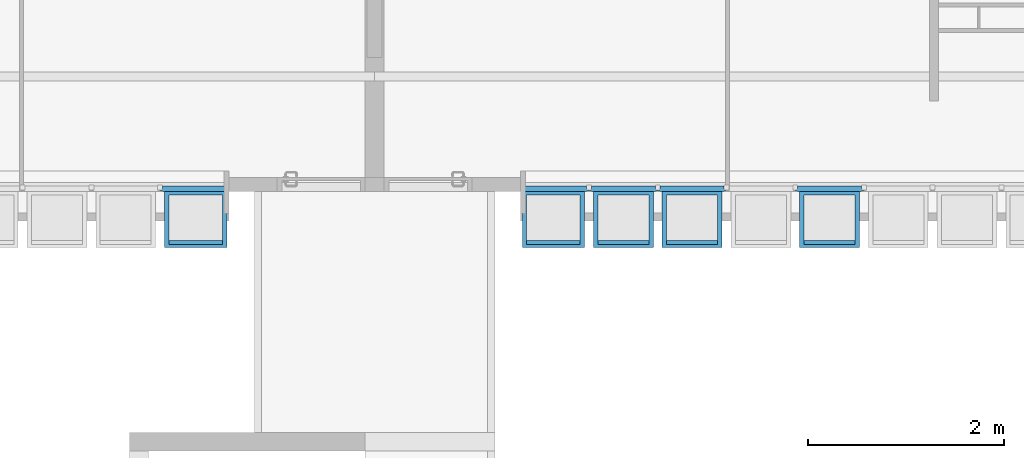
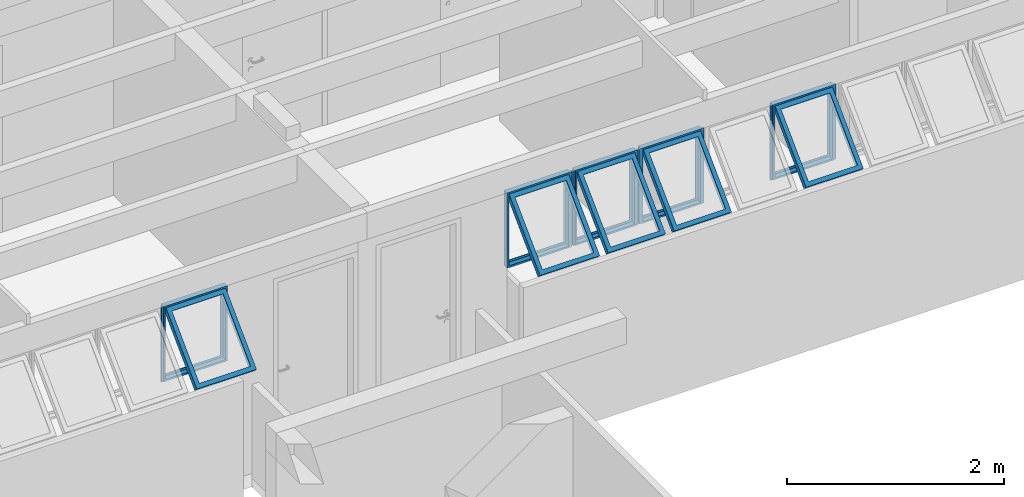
# One storey, part 32 of 37: 5 building element parts, 7 elements without a shape of their own.
"""IFC2X3 building model written with IfcOpenShell, lengths in millimetres."""

from ifc_helpers import new_model, entity, si_unit, converted_unit, derived_unit, money_unit, direction, frame, origin_with_axes, place, context, subcontext, project, spatial, faceted_brep, source, transform, mapped, material, type_object, element, aggregate, save


model = new_model("IFC2X3")

# Units and contexts
model_context = context("Model", 3, precision=0.01, world=origin_with_axes(), true_north=direction((0.0, 1.0)))
body_context = subcontext(model_context, "Body", "Model", "MODEL_VIEW")
ifc_project = project(units=[si_unit("LENGTHUNIT", "METRE", prefix="MILLI"), si_unit("AREAUNIT", "SQUARE_METRE"), si_unit("VOLUMEUNIT", "CUBIC_METRE"), converted_unit("PLANEANGLEUNIT", "DEGREE", entity("IfcPlaneAngleMeasure", 0.0174532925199), si_unit("PLANEANGLEUNIT", "RADIAN"), dimensions=[0, 0, 0, 0, 0, 0, 0]), money_unit("USD"), converted_unit("TIMEUNIT", "Year", entity("IfcTimeMeasure", 31556926.0), si_unit("TIMEUNIT", "SECOND"), dimensions=[0, 0, 1, 0, 0, 0, 0]), si_unit("MASSUNIT", "GRAM", prefix="KILO"), si_unit("THERMODYNAMICTEMPERATUREUNIT", "DEGREE_CELSIUS"), si_unit("LUMINOUSINTENSITYUNIT", "LUMEN"), si_unit("ENERGYUNIT", "JOULE", prefix="MEGA"), derived_unit("THERMALCONDUCTANCEUNIT", [(si_unit("POWERUNIT", "WATT"), 1), (si_unit("LENGTHUNIT", "METRE"), -1), (si_unit("THERMODYNAMICTEMPERATUREUNIT", "KELVIN"), -1)]), derived_unit("SPECIFICHEATCAPACITYUNIT", [(si_unit("ENERGYUNIT", "JOULE"), 1), (si_unit("MASSUNIT", "GRAM", prefix="KILO"), -1), (si_unit("THERMODYNAMICTEMPERATUREUNIT", "KELVIN"), -1)]), derived_unit("MASSDENSITYUNIT", [(si_unit("MASSUNIT", "GRAM", prefix="KILO"), 1), (si_unit("VOLUMEUNIT", "CUBIC_METRE"), -1)])], contexts=[model_context])

# Site, building, storey
site_placement = place(None, origin_with_axes())
site = spatial("IfcSite", under=ifc_project, at=site_placement, Name="Local", CompositionType="ELEMENT")
building_placement = place(site_placement, origin_with_axes())
building = spatial("IfcBuilding", under=site, at=building_placement, Name="Construção", CompositionType="ELEMENT")
storey_placement = place(building_placement, frame((0.0, 0.0, 5300.0), z_axis=(0.0, 0.0, 1.0), x_axis=(1.0, 0.0, 0.0)))
storey = spatial("IfcBuildingStorey", under=building, at=storey_placement, Name="Terceiro Pavimento", CompositionType="ELEMENT", Elevation=5300.0)

# Window, plates, building element parts
window_style = type_object("IfcWindowStyle", Name="Tipo de Parede Cortina", ConstructionType="NOTDEFINED", OperationType="NOTDEFINED", ParameterTakesPrecedence=False, Sizeable=False)
window_1_placement = place(storey_placement, frame((12020.0, 17910.0, 1355.00007107), z_axis=(0.0, 0.0, 1.0), x_axis=(1.0, 0.0, 0.0)))
window_1 = element("IfcWindow", 1, at=window_1_placement, inside=storey, type_object=window_style, Name="APTO12-JANELA-000")
plate_type_1 = type_object("IfcPlateType", Name="Painel Principal 690 x 845 x 20", PredefinedType="CURTAIN_PANEL")
plate_1_placement = place(window_1_placement, frame((0.0, 0.0, 422.499964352), z_axis=(0.0, 0.0, 1.0), x_axis=(1.0, 0.0, 0.0)))
plate_1 = element("IfcPlate", 2, at=plate_1_placement, type_object=plate_type_1, Name="APTO12-Painel-Prin-013")
ifc_material = material(Name="Alumínio")
shared_shape_1 = source(origin_with_axes(), body_context, "Body", "Brep", [
    faceted_brep([(-25.0000036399, 0.0, -40.0), (-25.0000036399, 0.0, -35.0), (-674.999997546, 0.0, -35.0), (-674.999997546, 0.0, -40.0), (-70.0000036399, 45.0, -40.0), (-70.0000036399, 45.0, -35.0), (-629.999997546, 45.0, -35.0), (-629.999997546, 45.0, -40.0)], [[[0, 1, 2, 3]], [[4, 5, 1, 0]], [[1, 5, 6, 2]], [[3, 2, 6, 7]], [[0, 3, 7, 4]], [[7, 6, 5, 4]]]),
    faceted_brep([(-674.999997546, 0.0, -40.0), (-674.999997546, 0.0, -35.0), (-674.999997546, 844.999891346, -35.0), (-674.999997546, 844.999891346, -40.0), (-629.999997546, 45.0, -40.0), (-629.999997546, 45.0, -35.0), (-629.999997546, 799.999891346, -35.0), (-629.999997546, 799.999891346, -40.0)], [[[0, 1, 2, 3]], [[4, 5, 1, 0]], [[1, 5, 6, 2]], [[3, 2, 6, 7]], [[0, 3, 7, 4]], [[7, 6, 5, 4]]]),
    faceted_brep([(-25.0000036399, 844.999891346, -40.0), (-25.0000036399, 844.999891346, -35.0), (-70.0000036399, 799.999891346, -35.0), (-70.0000036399, 799.999891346, -40.0), (-674.999997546, 844.999891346, -40.0), (-674.999997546, 844.999891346, -35.0), (-629.999997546, 799.999891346, -35.0), (-629.999997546, 799.999891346, -40.0)], [[[0, 1, 2, 3]], [[4, 5, 1, 0]], [[1, 5, 6, 2]], [[3, 2, 6, 7]], [[0, 3, 7, 4]], [[7, 6, 5, 4]]]),
    faceted_brep([(-25.0000036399, 0.0, -40.0), (-25.0000036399, 0.0, -35.0), (-70.0000036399, 45.0, -35.0), (-70.0000036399, 45.0, -40.0), (-25.0000036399, 844.999891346, -40.0), (-25.0000036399, 844.999891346, -35.0), (-70.0000036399, 799.999891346, -35.0), (-70.0000036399, 799.999891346, -40.0)], [[[0, 1, 2, 3]], [[4, 5, 1, 0]], [[1, 5, 6, 2]], [[3, 2, 6, 7]], [[0, 3, 7, 4]], [[7, 6, 5, 4]]]),
    faceted_brep([(-25.0000036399, 0.0, -35.0), (-25.0000036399, 0.0, 15.0), (-674.999997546, 0.0, 15.0), (-674.999997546, 0.0, -35.0), (-45.0000036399, 20.0, -35.0), (-45.0000036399, 20.0, 15.0), (-654.999997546, 20.0, 15.0), (-654.999997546, 20.0, -35.0)], [[[0, 1, 2, 3]], [[4, 5, 1, 0]], [[1, 5, 6, 2]], [[3, 2, 6, 7]], [[0, 3, 7, 4]], [[7, 6, 5, 4]]]),
    faceted_brep([(-674.999997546, 0.0, -35.0), (-674.999997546, 0.0, 15.0), (-674.999997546, 844.999891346, 15.0), (-674.999997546, 844.999891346, -35.0), (-654.999997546, 20.0, -35.0), (-654.999997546, 20.0, 15.0), (-654.999997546, 824.999891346, 15.0), (-654.999997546, 824.999891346, -35.0)], [[[0, 1, 2, 3]], [[4, 5, 1, 0]], [[1, 5, 6, 2]], [[3, 2, 6, 7]], [[0, 3, 7, 4]], [[7, 6, 5, 4]]]),
    faceted_brep([(-25.0000036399, 844.999891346, -35.0), (-25.0000036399, 844.999891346, 15.0), (-45.0000036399, 824.999891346, 15.0), (-45.0000036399, 824.999891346, -35.0), (-674.999997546, 844.999891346, -35.0), (-674.999997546, 844.999891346, 15.0), (-654.999997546, 824.999891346, 15.0), (-654.999997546, 824.999891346, -35.0)], [[[0, 1, 2, 3]], [[4, 5, 1, 0]], [[1, 5, 6, 2]], [[3, 2, 6, 7]], [[0, 3, 7, 4]], [[7, 6, 5, 4]]]),
    faceted_brep([(-25.0000036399, 0.0, -35.0), (-25.0000036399, 0.0, 15.0), (-45.0000036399, 20.0, 15.0), (-45.0000036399, 20.0, -35.0), (-25.0000036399, 844.999891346, -35.0), (-25.0000036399, 844.999891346, 15.0), (-45.0000036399, 824.999891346, 15.0), (-45.0000036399, 824.999891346, -35.0)], [[[0, 1, 2, 3]], [[4, 5, 1, 0]], [[1, 5, 6, 2]], [[3, 2, 6, 7]], [[0, 3, 7, 4]], [[7, 6, 5, 4]]]),
    faceted_brep([(-694.999995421, 0.0, -10.0), (-694.999995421, 0.0, 10.0), (-694.999995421, 844.999891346, 10.0), (-694.999995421, 844.999891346, -10.0), (-674.999997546, 0.0, -10.0), (-674.999997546, 0.0, 10.0), (-674.999997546, 844.999891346, 10.0), (-674.999997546, 844.999891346, -10.0)], [[[0, 1, 2, 3]], [[4, 5, 1, 0]], [[1, 5, 6, 2]], [[3, 2, 6, 7]], [[0, 3, 7, 4]], [[7, 6, 5, 4]]]),
    faceted_brep([(-5.00000576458, 844.999891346, -10.0), (-5.00000576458, 844.999891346, 10.0), (-5.00000576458, 0.0, 10.0), (-5.00000576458, 0.0, -10.0), (-25.0000036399, 844.999891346, -10.0), (-25.0000036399, 844.999891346, 10.0), (-25.0000036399, 0.0, 10.0), (-25.0000036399, 0.0, -10.0)], [[[0, 1, 2, 3]], [[4, 5, 1, 0]], [[1, 5, 6, 2]], [[3, 2, 6, 7]], [[0, 3, 7, 4]], [[7, 6, 5, 4]]]),
    faceted_brep([(-90.0000036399, 252.243475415, 517.045737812), (-90.0000036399, 291.13434838, 555.936610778), (-90.0000036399, 796.715620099, 50.3553390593), (-90.0000036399, 757.824747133, 11.4644660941), (-45.0000036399, 220.423670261, 548.865542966), (-45.0000036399, 259.314543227, 587.756415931), (-45.0000036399, 828.535425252, 18.5355339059), (-45.0000036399, 789.644552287, -20.3553390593)], [[[0, 1, 2, 3]], [[4, 5, 1, 0]], [[1, 5, 6, 2]], [[3, 2, 6, 7]], [[0, 3, 7, 4]], [[7, 6, 5, 4]]]),
    faceted_brep([(-654.999997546, 220.423670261, 548.865542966), (-654.999997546, 259.314543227, 587.756415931), (-654.999997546, 828.535425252, 18.5355339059), (-654.999997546, 789.644552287, -20.3553390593), (-609.999997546, 252.243475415, 517.045737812), (-609.999997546, 291.13434838, 555.936610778), (-609.999997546, 796.715620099, 50.3553390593), (-609.999997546, 757.824747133, 11.4644660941)], [[[0, 1, 2, 3]], [[4, 5, 1, 0]], [[1, 5, 6, 2]], [[3, 2, 6, 7]], [[0, 3, 7, 4]], [[7, 6, 5, 4]]]),
    faceted_brep([(-654.999997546, 220.423670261, 548.865542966), (-654.999997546, 259.314543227, 587.756415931), (-609.999997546, 291.13434838, 555.936610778), (-609.999997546, 252.243475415, 517.045737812), (-45.0000036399, 220.423670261, 548.865542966), (-45.0000036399, 259.314543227, 587.756415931), (-90.0000036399, 291.13434838, 555.936610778), (-90.0000036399, 252.243475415, 517.045737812)], [[[0, 1, 2, 3]], [[4, 5, 1, 0]], [[1, 5, 6, 2]], [[3, 2, 6, 7]], [[0, 3, 7, 4]], [[7, 6, 5, 4]]]),
    faceted_brep([(-45.0000036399, 789.644552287, -20.3553390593), (-45.0000036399, 828.535425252, 18.5355339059), (-90.0000036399, 796.715620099, 50.3553390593), (-90.0000036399, 757.824747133, 11.4644660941), (-654.999997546, 789.644552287, -20.3553390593), (-654.999997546, 828.535425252, 18.5355339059), (-609.999997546, 796.715620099, 50.3553390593), (-609.999997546, 757.824747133, 11.4644660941)], [[[0, 1, 2, 3]], [[4, 5, 1, 0]], [[1, 5, 6, 2]], [[3, 2, 6, 7]], [[0, 3, 7, 4]], [[7, 6, 5, 4]]]),
])
building_element_part_1_placement = place(plate_1_placement, origin_with_axes())
building_element_part_1 = element("IfcBuildingElementPart", 3, at=building_element_part_1_placement, material=ifc_material, Name="Alumínio", context=body_context, shape_type="MappedRepresentation", body=[
    mapped(shared_shape_1, transform((350.0, 0.0, -422.499964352), x_axis=(1.0, 0.0, 0.0), y_axis=(0.0, 0.0, 1.0), z_axis=(0.0, -1.0, 0.0))),
])
aggregate(plate_1, [building_element_part_1])
plate_2_placement = place(window_1_placement, frame((-2100.0, 0.0, 422.499964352), z_axis=(0.0, 0.0, 1.0), x_axis=(1.0, 0.0, 0.0)))
plate_2 = element("IfcPlate", 4, at=plate_2_placement, type_object=plate_type_1, Name="APTO12-Painel-Prin-029")
building_element_part_2_placement = place(plate_2_placement, origin_with_axes())
building_element_part_2 = element("IfcBuildingElementPart", 5, at=building_element_part_2_placement, material=ifc_material, Name="Alumínio", context=body_context, shape_type="MappedRepresentation", body=[
    mapped(shared_shape_1, transform((350.0, 0.0, -422.499964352), x_axis=(1.0, 0.0, 0.0), y_axis=(0.0, 0.0, 1.0), z_axis=(0.0, -1.0, 0.0))),
])
aggregate(plate_2, [building_element_part_2])
plate_3_placement = place(window_1_placement, frame((-1400.0, 0.0, 422.499964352), z_axis=(0.0, 0.0, 1.0), x_axis=(1.0, 0.0, 0.0)))
plate_3 = element("IfcPlate", 6, at=plate_3_placement, type_object=plate_type_1, Name="APTO12-Painel-Prin-025")
shared_shape_2 = source(origin_with_axes(), body_context, "Body", "Brep", [
    faceted_brep([(-25.0000036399, 0.0, -40.0), (-25.0000036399, 0.0, -35.0), (-674.999997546, 0.0, -35.0), (-674.999997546, 0.0, -40.0), (-70.0000036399, 45.0, -40.0), (-70.0000036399, 45.0, -35.0), (-629.999997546, 45.0, -35.0), (-629.999997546, 45.0, -40.0)], [[[0, 1, 2, 3]], [[4, 5, 1, 0]], [[1, 5, 6, 2]], [[3, 2, 6, 7]], [[0, 3, 7, 4]], [[7, 6, 5, 4]]]),
    faceted_brep([(-674.999997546, 0.0, -40.0), (-674.999997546, 0.0, -35.0), (-674.999997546, 844.999891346, -35.0), (-674.999997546, 844.999891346, -40.0), (-629.999997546, 45.0, -40.0), (-629.999997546, 45.0, -35.0), (-629.999997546, 799.999891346, -35.0), (-629.999997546, 799.999891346, -40.0)], [[[0, 1, 2, 3]], [[4, 5, 1, 0]], [[1, 5, 6, 2]], [[3, 2, 6, 7]], [[0, 3, 7, 4]], [[7, 6, 5, 4]]]),
    faceted_brep([(-25.0000036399, 844.999891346, -40.0), (-25.0000036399, 844.999891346, -35.0), (-70.0000036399, 799.999891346, -35.0), (-70.0000036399, 799.999891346, -40.0), (-674.999997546, 844.999891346, -40.0), (-674.999997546, 844.999891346, -35.0), (-629.999997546, 799.999891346, -35.0), (-629.999997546, 799.999891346, -40.0)], [[[0, 1, 2, 3]], [[4, 5, 1, 0]], [[1, 5, 6, 2]], [[3, 2, 6, 7]], [[0, 3, 7, 4]], [[7, 6, 5, 4]]]),
    faceted_brep([(-25.0000036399, 0.0, -40.0), (-25.0000036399, 0.0, -35.0), (-70.0000036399, 45.0, -35.0), (-70.0000036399, 45.0, -40.0), (-25.0000036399, 844.999891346, -40.0), (-25.0000036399, 844.999891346, -35.0), (-70.0000036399, 799.999891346, -35.0), (-70.0000036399, 799.999891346, -40.0)], [[[0, 1, 2, 3]], [[4, 5, 1, 0]], [[1, 5, 6, 2]], [[3, 2, 6, 7]], [[0, 3, 7, 4]], [[7, 6, 5, 4]]]),
    faceted_brep([(-25.0000036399, 0.0, -35.0), (-25.0000036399, 0.0, 15.0), (-674.999997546, 0.0, 15.0), (-674.999997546, 0.0, -35.0), (-45.0000036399, 20.0, -35.0), (-45.0000036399, 20.0, 15.0), (-654.999997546, 20.0, 15.0), (-654.999997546, 20.0, -35.0)], [[[0, 1, 2, 3]], [[4, 5, 1, 0]], [[1, 5, 6, 2]], [[3, 2, 6, 7]], [[0, 3, 7, 4]], [[7, 6, 5, 4]]]),
    faceted_brep([(-674.999997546, 0.0, -35.0), (-674.999997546, 0.0, 15.0), (-674.999997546, 844.999891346, 15.0), (-674.999997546, 844.999891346, -35.0), (-654.999997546, 20.0, -35.0), (-654.999997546, 20.0, 15.0), (-654.999997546, 824.999891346, 15.0), (-654.999997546, 824.999891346, -35.0)], [[[0, 1, 2, 3]], [[4, 5, 1, 0]], [[1, 5, 6, 2]], [[3, 2, 6, 7]], [[0, 3, 7, 4]], [[7, 6, 5, 4]]]),
    faceted_brep([(-25.0000036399, 844.999891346, -35.0), (-25.0000036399, 844.999891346, 15.0), (-45.0000036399, 824.999891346, 15.0), (-45.0000036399, 824.999891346, -35.0), (-674.999997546, 844.999891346, -35.0), (-674.999997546, 844.999891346, 15.0), (-654.999997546, 824.999891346, 15.0), (-654.999997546, 824.999891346, -35.0)], [[[0, 1, 2, 3]], [[4, 5, 1, 0]], [[1, 5, 6, 2]], [[3, 2, 6, 7]], [[0, 3, 7, 4]], [[7, 6, 5, 4]]]),
    faceted_brep([(-25.0000036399, 0.0, -35.0), (-25.0000036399, 0.0, 15.0), (-45.0000036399, 20.0, 15.0), (-45.0000036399, 20.0, -35.0), (-25.0000036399, 844.999891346, -35.0), (-25.0000036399, 844.999891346, 15.0), (-45.0000036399, 824.999891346, 15.0), (-45.0000036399, 824.999891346, -35.0)], [[[0, 1, 2, 3]], [[4, 5, 1, 0]], [[1, 5, 6, 2]], [[3, 2, 6, 7]], [[0, 3, 7, 4]], [[7, 6, 5, 4]]]),
    faceted_brep([(-694.999995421, 0.0, -10.0), (-694.999995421, 0.0, 10.0), (-694.999995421, 844.999891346, 10.0), (-694.999995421, 844.999891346, -10.0), (-674.999997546, 0.0, -10.0), (-674.999997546, 0.0, 10.0), (-674.999997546, 844.999891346, 10.0), (-674.999997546, 844.999891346, -10.0)], [[[0, 1, 2, 3]], [[4, 5, 1, 0]], [[1, 5, 6, 2]], [[3, 2, 6, 7]], [[0, 3, 7, 4]], [[7, 6, 5, 4]]]),
    faceted_brep([(-5.00000576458, 844.999891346, -10.0), (-5.00000576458, 844.999891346, 10.0), (-5.00000576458, 0.0, 10.0), (-5.00000576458, 0.0, -10.0), (-25.0000036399, 844.999891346, -10.0), (-25.0000036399, 844.999891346, 10.0), (-25.0000036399, 0.0, 10.0), (-25.0000036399, 0.0, -10.0)], [[[0, 1, 2, 3]], [[4, 5, 1, 0]], [[1, 5, 6, 2]], [[3, 2, 6, 7]], [[0, 3, 7, 4]], [[7, 6, 5, 4]]]),
    faceted_brep([(-90.0000036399, 252.243475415, 517.045737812), (-90.0000036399, 291.13434838, 555.936610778), (-90.0000036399, 796.715620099, 50.3553390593), (-90.0000036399, 757.824747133, 11.4644660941), (-45.0000036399, 220.423670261, 548.865542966), (-45.0000036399, 259.314543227, 587.756415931), (-45.0000036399, 828.535425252, 18.5355339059), (-45.0000036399, 789.644552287, -20.3553390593)], [[[0, 1, 2, 3]], [[4, 5, 1, 0]], [[1, 5, 6, 2]], [[3, 2, 6, 7]], [[0, 3, 7, 4]], [[7, 6, 5, 4]]]),
    faceted_brep([(-654.999997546, 220.423670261, 548.865542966), (-654.999997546, 259.314543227, 587.756415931), (-654.999997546, 828.535425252, 18.5355339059), (-654.999997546, 789.644552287, -20.3553390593), (-609.999997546, 252.243475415, 517.045737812), (-609.999997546, 291.13434838, 555.936610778), (-609.999997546, 796.715620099, 50.3553390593), (-609.999997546, 757.824747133, 11.4644660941)], [[[0, 1, 2, 3]], [[4, 5, 1, 0]], [[1, 5, 6, 2]], [[3, 2, 6, 7]], [[0, 3, 7, 4]], [[7, 6, 5, 4]]]),
    faceted_brep([(-654.999997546, 220.423670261, 548.865542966), (-654.999997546, 259.314543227, 587.756415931), (-609.999997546, 291.13434838, 555.936610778), (-609.999997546, 252.243475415, 517.045737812), (-45.0000036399, 220.423670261, 548.865542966), (-45.0000036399, 259.314543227, 587.756415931), (-90.0000036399, 291.13434838, 555.936610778), (-90.0000036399, 252.243475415, 517.045737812)], [[[0, 1, 2, 3]], [[4, 5, 1, 0]], [[1, 5, 6, 2]], [[3, 2, 6, 7]], [[0, 3, 7, 4]], [[7, 6, 5, 4]]]),
    faceted_brep([(-45.0000036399, 789.644552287, -20.3553390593), (-45.0000036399, 828.535425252, 18.5355339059), (-90.0000036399, 796.715620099, 50.3553390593), (-90.0000036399, 757.824747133, 11.4644660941), (-654.999997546, 789.644552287, -20.3553390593), (-654.999997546, 828.535425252, 18.5355339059), (-609.999997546, 796.715620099, 50.3553390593), (-609.999997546, 757.824747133, 11.4644660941)], [[[0, 1, 2, 3]], [[4, 5, 1, 0]], [[1, 5, 6, 2]], [[3, 2, 6, 7]], [[0, 3, 7, 4]], [[7, 6, 5, 4]]]),
])
building_element_part_3_placement = place(plate_3_placement, origin_with_axes())
building_element_part_3 = element("IfcBuildingElementPart", 7, at=building_element_part_3_placement, material=ifc_material, Name="Alumínio", context=body_context, shape_type="MappedRepresentation", body=[
    mapped(shared_shape_2, transform((350.0, 0.0, -422.499964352), x_axis=(1.0, 0.0, 0.0), y_axis=(0.0, 0.0, 1.0), z_axis=(0.0, -1.0, 0.0))),
])
aggregate(plate_3, [building_element_part_3])
plate_type_2 = type_object("IfcPlateType", Name="Painel Principal 695 x 845 x 20", PredefinedType="CURTAIN_PANEL")
plate_4_placement = place(window_1_placement, frame((-2800.0, 0.0, 422.499986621), z_axis=(0.0, 0.0, 1.0), x_axis=(1.0, 0.0, 0.0)))
plate_4 = element("IfcPlate", 8, at=plate_4_placement, type_object=plate_type_2, Name="APTO12-Painel-Prin-020")
aggregate(window_1, [plate_1, plate_2, plate_3, plate_4])
shared_shape_3 = source(origin_with_axes(), body_context, "Body", "Brep", [
    faceted_brep([(-25.0000062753, 0.0, -40.0), (-25.0000062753, 0.0, -35.0), (-699.999999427, 0.0, -35.0), (-699.999999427, 0.0, -40.0), (-70.0000062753, 45.0, -40.0), (-70.0000062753, 45.0, -35.0), (-654.999999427, 45.0, -35.0), (-654.999999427, 45.0, -40.0)], [[[0, 1, 2, 3]], [[4, 5, 1, 0]], [[1, 5, 6, 2]], [[3, 2, 6, 7]], [[0, 3, 7, 4]], [[7, 6, 5, 4]]]),
    faceted_brep([(-699.999999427, 0.0, -40.0), (-699.999999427, 0.0, -35.0), (-699.999999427, 844.999980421, -35.0), (-699.999999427, 844.999980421, -40.0), (-654.999999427, 45.0, -40.0), (-654.999999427, 45.0, -35.0), (-654.999999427, 799.999980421, -35.0), (-654.999999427, 799.999980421, -40.0)], [[[0, 1, 2, 3]], [[4, 5, 1, 0]], [[1, 5, 6, 2]], [[3, 2, 6, 7]], [[0, 3, 7, 4]], [[7, 6, 5, 4]]]),
    faceted_brep([(-25.0000062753, 844.999980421, -40.0), (-25.0000062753, 844.999980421, -35.0), (-70.0000062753, 799.999980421, -35.0), (-70.0000062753, 799.999980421, -40.0), (-699.999999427, 844.999980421, -40.0), (-699.999999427, 844.999980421, -35.0), (-654.999999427, 799.999980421, -35.0), (-654.999999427, 799.999980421, -40.0)], [[[0, 1, 2, 3]], [[4, 5, 1, 0]], [[1, 5, 6, 2]], [[3, 2, 6, 7]], [[0, 3, 7, 4]], [[7, 6, 5, 4]]]),
    faceted_brep([(-25.0000062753, 0.0, -40.0), (-25.0000062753, 0.0, -35.0), (-70.0000062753, 45.0, -35.0), (-70.0000062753, 45.0, -40.0), (-25.0000062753, 844.999980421, -40.0), (-25.0000062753, 844.999980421, -35.0), (-70.0000062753, 799.999980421, -35.0), (-70.0000062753, 799.999980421, -40.0)], [[[0, 1, 2, 3]], [[4, 5, 1, 0]], [[1, 5, 6, 2]], [[3, 2, 6, 7]], [[0, 3, 7, 4]], [[7, 6, 5, 4]]]),
    faceted_brep([(-25.0000062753, 0.0, -35.0), (-25.0000062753, 0.0, 15.0), (-699.999999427, 0.0, 15.0), (-699.999999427, 0.0, -35.0), (-45.0000062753, 20.0, -35.0), (-45.0000062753, 20.0, 15.0), (-679.999999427, 20.0, 15.0), (-679.999999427, 20.0, -35.0)], [[[0, 1, 2, 3]], [[4, 5, 1, 0]], [[1, 5, 6, 2]], [[3, 2, 6, 7]], [[0, 3, 7, 4]], [[7, 6, 5, 4]]]),
    faceted_brep([(-699.999999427, 0.0, -35.0), (-699.999999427, 0.0, 15.0), (-699.999999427, 844.999980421, 15.0), (-699.999999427, 844.999980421, -35.0), (-679.999999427, 20.0, -35.0), (-679.999999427, 20.0, 15.0), (-679.999999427, 824.999980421, 15.0), (-679.999999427, 824.999980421, -35.0)], [[[0, 1, 2, 3]], [[4, 5, 1, 0]], [[1, 5, 6, 2]], [[3, 2, 6, 7]], [[0, 3, 7, 4]], [[7, 6, 5, 4]]]),
    faceted_brep([(-25.0000062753, 844.999980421, -35.0), (-25.0000062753, 844.999980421, 15.0), (-45.0000062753, 824.999980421, 15.0), (-45.0000062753, 824.999980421, -35.0), (-699.999999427, 844.999980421, -35.0), (-699.999999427, 844.999980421, 15.0), (-679.999999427, 824.999980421, 15.0), (-679.999999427, 824.999980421, -35.0)], [[[0, 1, 2, 3]], [[4, 5, 1, 0]], [[1, 5, 6, 2]], [[3, 2, 6, 7]], [[0, 3, 7, 4]], [[7, 6, 5, 4]]]),
    faceted_brep([(-25.0000062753, 0.0, -35.0), (-25.0000062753, 0.0, 15.0), (-45.0000062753, 20.0, 15.0), (-45.0000062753, 20.0, -35.0), (-25.0000062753, 844.999980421, -35.0), (-25.0000062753, 844.999980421, 15.0), (-45.0000062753, 824.999980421, 15.0), (-45.0000062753, 824.999980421, -35.0)], [[[0, 1, 2, 3]], [[4, 5, 1, 0]], [[1, 5, 6, 2]], [[3, 2, 6, 7]], [[0, 3, 7, 4]], [[7, 6, 5, 4]]]),
    faceted_brep([(-5.00000629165, 844.999980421, -10.0), (-5.00000629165, 844.999980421, 10.0), (-5.00000629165, 0.0, 10.0), (-5.00000629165, 0.0, -10.0), (-25.0000062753, 844.999980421, -10.0), (-25.0000062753, 844.999980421, 10.0), (-25.0000062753, 0.0, 10.0), (-25.0000062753, 0.0, -10.0)], [[[0, 1, 2, 3]], [[4, 5, 1, 0]], [[1, 5, 6, 2]], [[3, 2, 6, 7]], [[0, 3, 7, 4]], [[7, 6, 5, 4]]]),
    faceted_brep([(-90.0000062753, 252.243501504, 517.045800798), (-90.0000062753, 291.134374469, 555.936673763), (-90.0000062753, 796.715709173, 50.3553390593), (-90.0000062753, 757.824836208, 11.4644660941), (-45.0000062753, 220.423696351, 548.865605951), (-45.0000062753, 259.314569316, 587.756478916), (-45.0000062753, 828.535514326, 18.5355339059), (-45.0000062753, 789.644641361, -20.3553390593)], [[[0, 1, 2, 3]], [[4, 5, 1, 0]], [[1, 5, 6, 2]], [[3, 2, 6, 7]], [[0, 3, 7, 4]], [[7, 6, 5, 4]]]),
    faceted_brep([(-679.999999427, 220.423696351, 548.865605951), (-679.999999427, 259.314569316, 587.756478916), (-679.999999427, 828.535514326, 18.5355339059), (-679.999999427, 789.644641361, -20.3553390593), (-634.999999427, 252.243501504, 517.045800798), (-634.999999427, 291.134374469, 555.936673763), (-634.999999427, 796.715709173, 50.3553390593), (-634.999999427, 757.824836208, 11.4644660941)], [[[0, 1, 2, 3]], [[4, 5, 1, 0]], [[1, 5, 6, 2]], [[3, 2, 6, 7]], [[0, 3, 7, 4]], [[7, 6, 5, 4]]]),
    faceted_brep([(-679.999999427, 220.423696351, 548.865605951), (-679.999999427, 259.314569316, 587.756478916), (-634.999999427, 291.134374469, 555.936673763), (-634.999999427, 252.243501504, 517.045800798), (-45.0000062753, 220.423696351, 548.865605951), (-45.0000062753, 259.314569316, 587.756478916), (-90.0000062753, 291.134374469, 555.936673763), (-90.0000062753, 252.243501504, 517.045800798)], [[[0, 1, 2, 3]], [[4, 5, 1, 0]], [[1, 5, 6, 2]], [[3, 2, 6, 7]], [[0, 3, 7, 4]], [[7, 6, 5, 4]]]),
    faceted_brep([(-45.0000062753, 789.644641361, -20.3553390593), (-45.0000062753, 828.535514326, 18.5355339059), (-90.0000062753, 796.715709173, 50.3553390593), (-90.0000062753, 757.824836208, 11.4644660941), (-679.999999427, 789.644641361, -20.3553390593), (-679.999999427, 828.535514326, 18.5355339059), (-634.999999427, 796.715709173, 50.3553390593), (-634.999999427, 757.824836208, 11.4644660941)], [[[0, 1, 2, 3]], [[4, 5, 1, 0]], [[1, 5, 6, 2]], [[3, 2, 6, 7]], [[0, 3, 7, 4]], [[7, 6, 5, 4]]]),
])
building_element_part_4_placement = place(plate_4_placement, origin_with_axes())
building_element_part_4 = element("IfcBuildingElementPart", 9, at=building_element_part_4_placement, material=ifc_material, Name="Alumínio", context=body_context, shape_type="MappedRepresentation", body=[
    mapped(shared_shape_3, transform((350.0, 0.0, -422.499986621), x_axis=(1.0, 0.0, 0.0), y_axis=(0.0, 0.0, 1.0), z_axis=(0.0, -1.0, 0.0))),
])
aggregate(plate_4, [building_element_part_4])

# Window, plate, building element part
window_2_placement = place(storey_placement, frame((2750.0, 17910.0, 1355.00007107), z_axis=(0.0, 0.0, 1.0), x_axis=(1.0, 0.0, 0.0)))
window_2 = element("IfcWindow", 10, at=window_2_placement, inside=storey, type_object=window_style, Name="APTO11-JANELA-000")
plate_5_placement = place(window_2_placement, frame((2800.0, 0.0, 422.499986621), z_axis=(0.0, 0.0, 1.0), x_axis=(-1.0, 0.0, 0.0)))
plate_5 = element("IfcPlate", 11, at=plate_5_placement, type_object=plate_type_2, Name="APTO11-Painel-Prin-020")
aggregate(window_2, [plate_5])
shared_shape_4 = source(origin_with_axes(), body_context, "Body", "Brep", [
    faceted_brep([(25.0000062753, 0.0, -40.0), (699.999999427, 0.0, -40.0), (699.999999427, 0.0, -35.0), (25.0000062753, 0.0, -35.0), (70.0000062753, 45.0, -40.0), (654.999999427, 45.0, -40.0), (654.999999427, 45.0, -35.0), (70.0000062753, 45.0, -35.0)], [[[0, 1, 2, 3]], [[0, 4, 5, 1]], [[1, 5, 6, 2]], [[3, 2, 6, 7]], [[4, 0, 3, 7]], [[5, 4, 7, 6]]]),
    faceted_brep([(699.999999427, 0.0, -40.0), (699.999999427, 844.999980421, -40.0), (699.999999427, 844.999980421, -35.0), (699.999999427, 0.0, -35.0), (654.999999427, 45.0, -40.0), (654.999999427, 799.999980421, -40.0), (654.999999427, 799.999980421, -35.0), (654.999999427, 45.0, -35.0)], [[[0, 1, 2, 3]], [[0, 4, 5, 1]], [[1, 5, 6, 2]], [[3, 2, 6, 7]], [[4, 0, 3, 7]], [[5, 4, 7, 6]]]),
    faceted_brep([(25.0000062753, 844.999980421, -40.0), (70.0000062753, 799.999980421, -40.0), (70.0000062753, 799.999980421, -35.0), (25.0000062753, 844.999980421, -35.0), (699.999999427, 844.999980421, -40.0), (654.999999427, 799.999980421, -40.0), (654.999999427, 799.999980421, -35.0), (699.999999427, 844.999980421, -35.0)], [[[0, 1, 2, 3]], [[0, 4, 5, 1]], [[1, 5, 6, 2]], [[3, 2, 6, 7]], [[4, 0, 3, 7]], [[5, 4, 7, 6]]]),
    faceted_brep([(25.0000062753, 0.0, -40.0), (70.0000062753, 45.0, -40.0), (70.0000062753, 45.0, -35.0), (25.0000062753, 0.0, -35.0), (25.0000062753, 844.999980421, -40.0), (70.0000062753, 799.999980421, -40.0), (70.0000062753, 799.999980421, -35.0), (25.0000062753, 844.999980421, -35.0)], [[[0, 1, 2, 3]], [[0, 4, 5, 1]], [[1, 5, 6, 2]], [[3, 2, 6, 7]], [[4, 0, 3, 7]], [[5, 4, 7, 6]]]),
    faceted_brep([(25.0000062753, 0.0, -35.0), (699.999999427, 0.0, -35.0), (699.999999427, 0.0, 15.0), (25.0000062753, 0.0, 15.0), (45.0000062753, 20.0, -35.0), (679.999999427, 20.0, -35.0), (679.999999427, 20.0, 15.0), (45.0000062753, 20.0, 15.0)], [[[0, 1, 2, 3]], [[0, 4, 5, 1]], [[1, 5, 6, 2]], [[3, 2, 6, 7]], [[4, 0, 3, 7]], [[5, 4, 7, 6]]]),
    faceted_brep([(699.999999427, 0.0, -35.0), (699.999999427, 844.999980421, -35.0), (699.999999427, 844.999980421, 15.0), (699.999999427, 0.0, 15.0), (679.999999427, 20.0, -35.0), (679.999999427, 824.999980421, -35.0), (679.999999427, 824.999980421, 15.0), (679.999999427, 20.0, 15.0)], [[[0, 1, 2, 3]], [[0, 4, 5, 1]], [[1, 5, 6, 2]], [[3, 2, 6, 7]], [[4, 0, 3, 7]], [[5, 4, 7, 6]]]),
    faceted_brep([(25.0000062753, 844.999980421, -35.0), (45.0000062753, 824.999980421, -35.0), (45.0000062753, 824.999980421, 15.0), (25.0000062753, 844.999980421, 15.0), (699.999999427, 844.999980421, -35.0), (679.999999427, 824.999980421, -35.0), (679.999999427, 824.999980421, 15.0), (699.999999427, 844.999980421, 15.0)], [[[0, 1, 2, 3]], [[0, 4, 5, 1]], [[1, 5, 6, 2]], [[3, 2, 6, 7]], [[4, 0, 3, 7]], [[5, 4, 7, 6]]]),
    faceted_brep([(25.0000062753, 0.0, -35.0), (45.0000062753, 20.0, -35.0), (45.0000062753, 20.0, 15.0), (25.0000062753, 0.0, 15.0), (25.0000062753, 844.999980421, -35.0), (45.0000062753, 824.999980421, -35.0), (45.0000062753, 824.999980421, 15.0), (25.0000062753, 844.999980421, 15.0)], [[[0, 1, 2, 3]], [[0, 4, 5, 1]], [[1, 5, 6, 2]], [[3, 2, 6, 7]], [[4, 0, 3, 7]], [[5, 4, 7, 6]]]),
    faceted_brep([(5.00000629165, 844.999980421, -10.0), (5.00000629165, 0.0, -10.0), (5.00000629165, 0.0, 10.0), (5.00000629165, 844.999980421, 10.0), (25.0000062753, 844.999980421, -10.0), (25.0000062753, 0.0, -10.0), (25.0000062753, 0.0, 10.0), (25.0000062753, 844.999980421, 10.0)], [[[0, 1, 2, 3]], [[0, 4, 5, 1]], [[1, 5, 6, 2]], [[3, 2, 6, 7]], [[4, 0, 3, 7]], [[5, 4, 7, 6]]]),
    faceted_brep([(90.0000062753, 252.243501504, 517.045800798), (90.0000062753, 757.824836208, 11.4644660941), (90.0000062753, 796.715709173, 50.3553390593), (90.0000062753, 291.134374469, 555.936673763), (45.0000062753, 220.423696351, 548.865605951), (45.0000062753, 789.644641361, -20.3553390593), (45.0000062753, 828.535514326, 18.5355339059), (45.0000062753, 259.314569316, 587.756478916)], [[[0, 1, 2, 3]], [[0, 4, 5, 1]], [[1, 5, 6, 2]], [[3, 2, 6, 7]], [[4, 0, 3, 7]], [[5, 4, 7, 6]]]),
    faceted_brep([(679.999999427, 220.423696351, 548.865605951), (679.999999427, 789.644641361, -20.3553390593), (679.999999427, 828.535514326, 18.5355339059), (679.999999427, 259.314569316, 587.756478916), (634.999999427, 252.243501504, 517.045800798), (634.999999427, 757.824836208, 11.4644660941), (634.999999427, 796.715709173, 50.3553390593), (634.999999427, 291.134374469, 555.936673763)], [[[0, 1, 2, 3]], [[0, 4, 5, 1]], [[1, 5, 6, 2]], [[3, 2, 6, 7]], [[4, 0, 3, 7]], [[5, 4, 7, 6]]]),
    faceted_brep([(679.999999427, 220.423696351, 548.865605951), (634.999999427, 252.243501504, 517.045800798), (634.999999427, 291.134374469, 555.936673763), (679.999999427, 259.314569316, 587.756478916), (45.0000062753, 220.423696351, 548.865605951), (90.0000062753, 252.243501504, 517.045800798), (90.0000062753, 291.134374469, 555.936673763), (45.0000062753, 259.314569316, 587.756478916)], [[[0, 1, 2, 3]], [[0, 4, 5, 1]], [[1, 5, 6, 2]], [[3, 2, 6, 7]], [[4, 0, 3, 7]], [[5, 4, 7, 6]]]),
    faceted_brep([(45.0000062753, 789.644641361, -20.3553390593), (90.0000062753, 757.824836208, 11.4644660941), (90.0000062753, 796.715709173, 50.3553390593), (45.0000062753, 828.535514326, 18.5355339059), (679.999999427, 789.644641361, -20.3553390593), (634.999999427, 757.824836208, 11.4644660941), (634.999999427, 796.715709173, 50.3553390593), (679.999999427, 828.535514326, 18.5355339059)], [[[0, 1, 2, 3]], [[0, 4, 5, 1]], [[1, 5, 6, 2]], [[3, 2, 6, 7]], [[4, 0, 3, 7]], [[5, 4, 7, 6]]]),
])
building_element_part_5_placement = place(plate_5_placement, origin_with_axes())
building_element_part_5 = element("IfcBuildingElementPart", 12, at=building_element_part_5_placement, material=ifc_material, Name="Alumínio", context=body_context, shape_type="MappedRepresentation", body=[
    mapped(shared_shape_4, transform((350.0, 0.0, -422.499986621), x_axis=(-1.0, 0.0, 0.0), y_axis=(0.0, 0.0, 1.0), z_axis=(0.0, 1.0, 0.0))),
])
aggregate(plate_5, [building_element_part_5])

save(model, "model.ifc")
